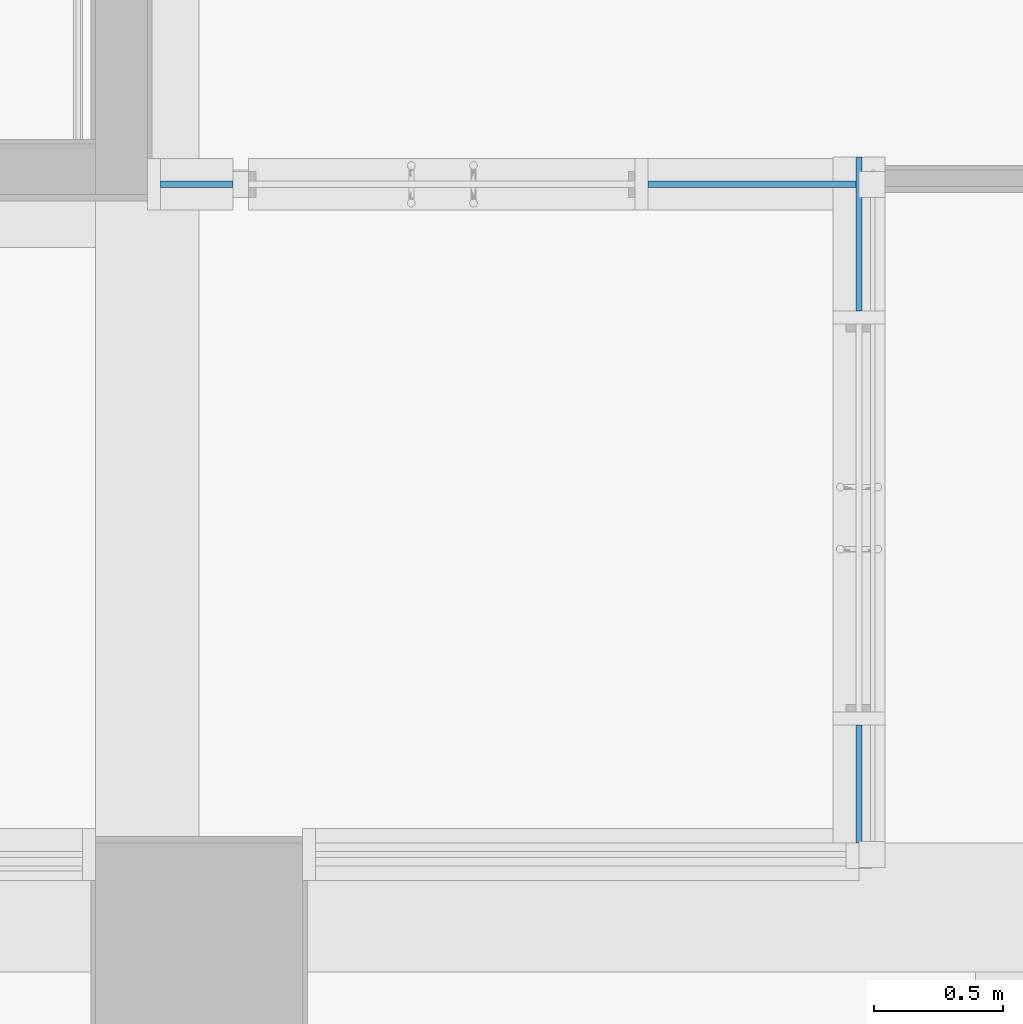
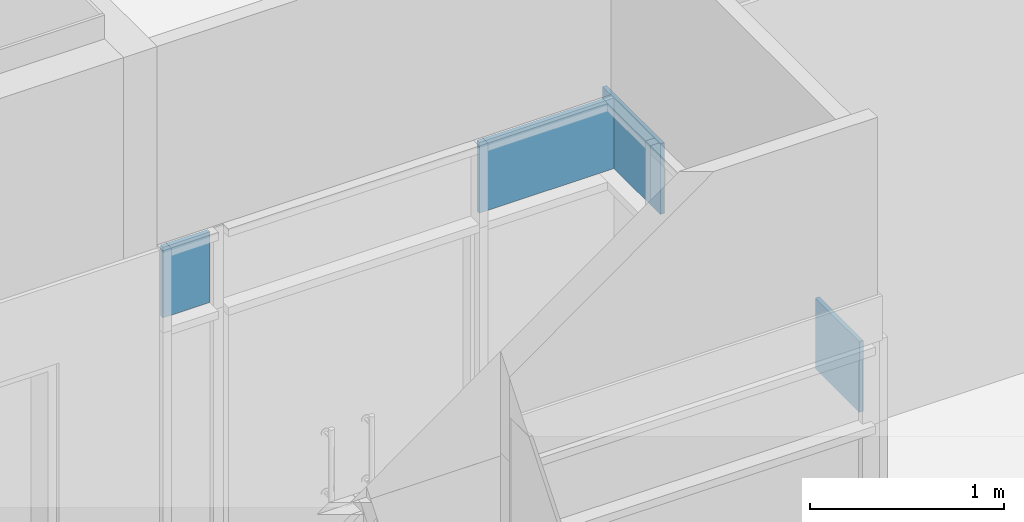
# One storey, part 39 of 76: 4 plates, 2 elements without a shape of their own.
"""IFC2X3 building model written with IfcOpenShell, lengths in millimetres."""

from ifc_helpers import new_model, entity, si_unit, converted_unit, derived_unit, direction, frame, origin, origin_2d_with_axis, place, context, subcontext, project, spatial, rectangle, extrude, source, transform, mapped, material, type_object, type_shapes, element, aggregate, save


model = new_model("IFC2X3")

# Units and contexts
model_context = context("Model", 3, precision=0.01, world=origin(), true_north=direction((6.123031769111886e-17, 1.0)))
body_context = subcontext(model_context, "Body", "Model", "MODEL_VIEW")
ifc_project = project(units=[si_unit("LENGTHUNIT", "METRE", prefix="MILLI"), si_unit("AREAUNIT", "SQUARE_METRE"), si_unit("VOLUMEUNIT", "CUBIC_METRE"), converted_unit("PLANEANGLEUNIT", "DEGREE", entity("IfcRatioMeasure", 0.017453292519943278), si_unit("PLANEANGLEUNIT", "RADIAN"), dimensions=[0, 0, 0, 0, 0, 0, 0]), si_unit("MASSUNIT", "GRAM", prefix="KILO"), derived_unit("MASSDENSITYUNIT", [(si_unit("MASSUNIT", "GRAM", prefix="KILO"), 1), (si_unit("LENGTHUNIT", "METRE"), -3)]), derived_unit("MOMENTOFINERTIAUNIT", [(si_unit("LENGTHUNIT", "METRE"), 4)]), si_unit("TIMEUNIT", "SECOND"), si_unit("FREQUENCYUNIT", "HERTZ"), si_unit("THERMODYNAMICTEMPERATUREUNIT", "DEGREE_CELSIUS"), derived_unit("THERMALTRANSMITTANCEUNIT", [(si_unit("MASSUNIT", "GRAM", prefix="KILO"), 1), (si_unit("THERMODYNAMICTEMPERATUREUNIT", "KELVIN"), -1), (si_unit("TIMEUNIT", "SECOND"), -3)]), derived_unit("VOLUMETRICFLOWRATEUNIT", [(si_unit("LENGTHUNIT", "METRE"), 3), (si_unit("TIMEUNIT", "SECOND"), -1)]), derived_unit("MASSFLOWRATEUNIT", [(si_unit("MASSUNIT", "GRAM", prefix="KILO"), 1), (si_unit("TIMEUNIT", "SECOND"), -1)]), derived_unit("ROTATIONALFREQUENCYUNIT", [(si_unit("TIMEUNIT", "SECOND"), -1)]), si_unit("ELECTRICCURRENTUNIT", "AMPERE"), si_unit("ELECTRICVOLTAGEUNIT", "VOLT"), si_unit("POWERUNIT", "WATT"), si_unit("FORCEUNIT", "NEWTON", prefix="KILO"), si_unit("ILLUMINANCEUNIT", "LUX"), si_unit("LUMINOUSFLUXUNIT", "LUMEN"), si_unit("LUMINOUSINTENSITYUNIT", "CANDELA"), derived_unit("USERDEFINED", [(si_unit("MASSUNIT", "GRAM", prefix="KILO"), -1), (si_unit("LENGTHUNIT", "METRE"), -2), (si_unit("TIMEUNIT", "SECOND"), 3), (si_unit("LUMINOUSFLUXUNIT", "LUMEN"), 1)]), derived_unit("SOUNDPOWERUNIT", [(si_unit("MASSUNIT", "GRAM", prefix="KILO"), 1), (si_unit("LENGTHUNIT", "METRE"), 2), (si_unit("TIMEUNIT", "SECOND"), -3)]), derived_unit("SOUNDPRESSUREUNIT", [(si_unit("MASSUNIT", "GRAM", prefix="KILO"), 1), (si_unit("LENGTHUNIT", "METRE"), -1), (si_unit("TIMEUNIT", "SECOND"), -2)]), derived_unit("LINEARVELOCITYUNIT", [(si_unit("LENGTHUNIT", "METRE"), 1), (si_unit("TIMEUNIT", "SECOND"), -1)]), si_unit("PRESSUREUNIT", "PASCAL"), derived_unit("USERDEFINED", [(si_unit("LENGTHUNIT", "METRE"), -2), (si_unit("MASSUNIT", "GRAM", prefix="KILO"), 1), (si_unit("TIMEUNIT", "SECOND"), -2)]), derived_unit("LINEARFORCEUNIT", [(si_unit("MASSUNIT", "GRAM", prefix="KILO"), 1), (si_unit("LENGTHUNIT", "METRE"), 1), (si_unit("TIMEUNIT", "SECOND"), -2), (si_unit("LENGTHUNIT", "METRE"), -1)]), derived_unit("PLANARFORCEUNIT", [(si_unit("MASSUNIT", "GRAM", prefix="KILO"), 1), (si_unit("LENGTHUNIT", "METRE"), 1), (si_unit("TIMEUNIT", "SECOND"), -2), (si_unit("LENGTHUNIT", "METRE"), -2)])], contexts=[model_context])

# Site, building, storey
site_placement = place(None, frame((-14167.972527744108, -657.2125860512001, 0.0)))
site = spatial("IfcSite", under=ifc_project, at=site_placement, Name="Default", CompositionType="ELEMENT")
building_placement = place(site_placement, origin())
building = spatial("IfcBuilding", under=site, at=building_placement, Name="Sample Building", CompositionType="ELEMENT")
storey_placement = place(building_placement, frame((0.0, 0.0, 9300.0)))
storey = spatial("IfcBuildingStorey", under=building, at=storey_placement, Name="지상 3층", CompositionType="ELEMENT", Elevation=9300.000000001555)

# Curtain wall, plate
curtain_wall_type = type_object("IfcCurtainWallType", Name="커튼월:CW112-스테인리스 스틸 커튼월", PredefinedType="NOTDEFINED")
curtain_wall_1_placement = place(storey_placement, frame((0.0, 0.0, -9300.0)))
curtain_wall_1 = element("IfcCurtainWall", 1, at=curtain_wall_1_placement, inside=storey, type_object=curtain_wall_type, Name="커튼월:CW112-스테인리스 스틸 커튼월", ObjectType="커튼월:CW112-스테인리스 스틸 커튼월")
ifc_material = material(Name="KBIMS-로이유리(코팅)")
plate_type_1 = type_object("IfcPlateType", Name="CW300-THK24.Low-e coating glass:CW300-THK24.Low-e coating glass", PredefinedType="CURTAIN_PANEL", material=ifc_material)
shared_shape_1 = source(origin(), body_context, "Body", "SweptSolid", [
    extrude(rectangle(XDim=454.96509195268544, YDim=24.000000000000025, at=origin_2d_with_axis()), frame((0.0, 0.0, 0.0), z_axis=(0.0, 0.0, 1.0), x_axis=(-1.0, 0.0, 0.0)), (0.0, 0.0, 1.0), 445.0000000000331),
])
type_shapes(plate_type_1, [shared_shape_1])
plate_1_placement = place(curtain_wall_1_placement, frame((43717.972491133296, 13284.695132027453, 11505.0), z_axis=(0.0, 0.0, 1.0), x_axis=(0.0, 1.0, 0.0)))
plate_1 = element("IfcPlate", 2, at=plate_1_placement, type_object=plate_type_1, material=ifc_material, Name="CW300-THK24.Low-e coating glass:CW300-THK24.Low-e coating glass", ObjectType="CW300-THK24.Low-e coating glass:CW300-THK24.Low-e coating glass", context=body_context, shape_type="MappedRepresentation", body=[
    mapped(shared_shape_1, transform((0.0, 0.0, 0.0), scale=1.0)),
])

curtain_wall_2_placement = place(storey_placement, frame((0.0, 0.0, -9300.0)))
curtain_wall_2 = element("IfcCurtainWall", 3, at=curtain_wall_2_placement, inside=storey, type_object=curtain_wall_type, Name="커튼월:CW112-스테인리스 스틸 커튼월", ObjectType="커튼월:CW112-스테인리스 스틸 커튼월")
plate_type_2 = type_object("IfcPlateType", Name="CW300-THK24.Low-e coating glass:CW300-THK24.Low-e coating glass", PredefinedType="CURTAIN_PANEL", material=ifc_material)
shared_shape_2 = source(origin(), body_context, "Body", "SweptSolid", [
    extrude(rectangle(XDim=24.000000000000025, YDim=280.0086929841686, at=origin_2d_with_axis()), frame((0.0, 0.0, 0.0), z_axis=(0.0, 0.0, 1.0), x_axis=(0.0, 1.0, 0.0)), (0.0, 0.0, 1.0), 444.9999999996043),
])
type_shapes(plate_type_2, [shared_shape_2])
plate_2_placement = place(curtain_wall_2_placement, frame((41157.968144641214, 15602.177678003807, 11505.0), z_axis=(0.0, 0.0, 1.0), x_axis=(-1.0, 0.0, 0.0)))
plate_2 = element("IfcPlate", 4, at=plate_2_placement, type_object=plate_type_2, material=ifc_material, Name="CW300-THK24.Low-e coating glass:CW300-THK24.Low-e coating glass", ObjectType="CW300-THK24.Low-e coating glass:CW300-THK24.Low-e coating glass", context=body_context, shape_type="MappedRepresentation", body=[
    mapped(shared_shape_2, transform((0.0, 0.0, 0.0), scale=1.0)),
])

# Plate
plate_type_3 = type_object("IfcPlateType", Name="CW300-THK24.Low-e coating glass:CW300-THK24.Low-e coating glass", PredefinedType="CURTAIN_PANEL", material=ifc_material)
shared_shape_3 = source(origin(), body_context, "Body", "SweptSolid", [
    extrude(rectangle(XDim=595.0349080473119, YDim=24.000000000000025, at=origin_2d_with_axis()), frame((0.0, 0.0, 0.0), z_axis=(0.0, 0.0, 1.0), x_axis=(-1.0, 0.0, 0.0)), (0.0, 0.0, 1.0), 445.0000000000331),
])
type_shapes(plate_type_3, [shared_shape_3])
plate_3_placement = place(curtain_wall_1_placement, frame((43717.972491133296, 15409.695132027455, 11505.0), z_axis=(0.0, 0.0, 1.0), x_axis=(0.0, 1.0, 0.0)))
plate_3 = element("IfcPlate", 5, at=plate_3_placement, type_object=plate_type_3, material=ifc_material, Name="CW300-THK24.Low-e coating glass:CW300-THK24.Low-e coating glass", ObjectType="CW300-THK24.Low-e coating glass:CW300-THK24.Low-e coating glass", context=body_context, shape_type="MappedRepresentation", body=[
    mapped(shared_shape_3, transform((0.0, 0.0, 0.0), scale=1.0)),
])

aggregate(curtain_wall_1, [plate_1, plate_3])

plate_type_4 = type_object("IfcPlateType", Name="CW300-THK24.Low-e coating glass:CW300-THK24.Low-e coating glass", PredefinedType="CURTAIN_PANEL", material=ifc_material)
shared_shape_4 = source(origin(), body_context, "Body", "SweptSolid", [
    extrude(rectangle(XDim=24.000000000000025, YDim=814.9913070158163, at=origin_2d_with_axis()), frame((0.0, 0.0, 0.0), z_axis=(0.0, 0.0, 1.0), x_axis=(0.0, 1.0, 0.0)), (0.0, 0.0, 1.0), 444.9999999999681),
])
type_shapes(plate_type_4, [shared_shape_4])
plate_4_placement = place(curtain_wall_2_placement, frame((43310.46814464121, 15602.1776780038, 11505.0), z_axis=(0.0, 0.0, 1.0), x_axis=(-1.0, 0.0, 0.0)))
plate_4 = element("IfcPlate", 6, at=plate_4_placement, type_object=plate_type_4, material=ifc_material, Name="CW300-THK24.Low-e coating glass:CW300-THK24.Low-e coating glass", ObjectType="CW300-THK24.Low-e coating glass:CW300-THK24.Low-e coating glass", context=body_context, shape_type="MappedRepresentation", body=[
    mapped(shared_shape_4, transform((0.0, 0.0, 0.0), scale=1.0)),
])

aggregate(curtain_wall_2, [plate_4, plate_2])

save(model, "model.ifc")
